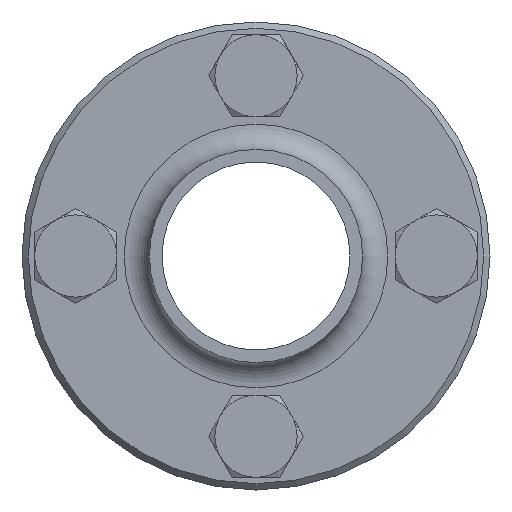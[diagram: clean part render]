
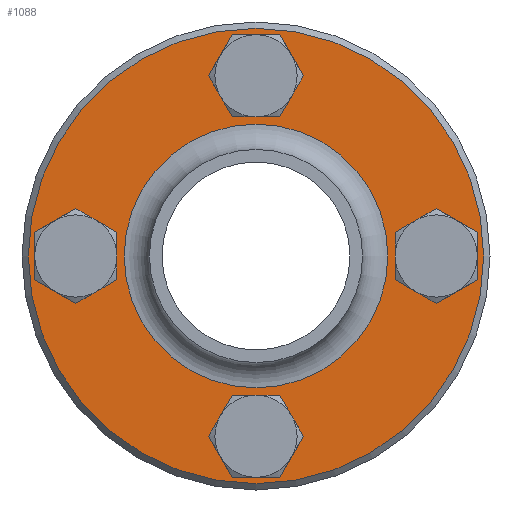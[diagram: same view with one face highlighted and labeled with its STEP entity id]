
A CAD part, front view. The second image highlights one B-rep face of the part: STEP entity #1088.
In plain terms, the highlighted planar face has unit normal (0, -1, 0).
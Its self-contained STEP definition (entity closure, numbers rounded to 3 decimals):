
#152=PLANE('',#1195);
#211=FACE_BOUND('',#381,.T.);
#212=FACE_BOUND('',#382,.T.);
#213=FACE_BOUND('',#383,.T.);
#214=FACE_BOUND('',#384,.T.);
#215=FACE_BOUND('',#385,.T.);
#280=FACE_OUTER_BOUND('',#380,.T.);
#380=EDGE_LOOP('',(#812));
#381=EDGE_LOOP('',(#813));
#382=EDGE_LOOP('',(#814));
#383=EDGE_LOOP('',(#815));
#384=EDGE_LOOP('',(#816));
#385=EDGE_LOOP('',(#817));
#491=CIRCLE('',#1155,4.5);
#493=CIRCLE('',#1158,4.5);
#495=CIRCLE('',#1161,4.5);
#497=CIRCLE('',#1164,4.5);
#513=CIRCLE('',#1194,36.);
#514=CIRCLE('',#1196,20.85);
#563=VERTEX_POINT('',#1674);
#565=VERTEX_POINT('',#1679);
#567=VERTEX_POINT('',#1684);
#569=VERTEX_POINT('',#1689);
#585=VERTEX_POINT('',#1735);
#586=VERTEX_POINT('',#1738);
#658=EDGE_CURVE('',#563,#563,#491,.T.);
#660=EDGE_CURVE('',#565,#565,#493,.T.);
#662=EDGE_CURVE('',#567,#567,#495,.T.);
#664=EDGE_CURVE('',#569,#569,#497,.T.);
#680=EDGE_CURVE('',#585,#585,#513,.T.);
#681=EDGE_CURVE('',#586,#586,#514,.T.);
#812=ORIENTED_EDGE('',*,*,#680,.T.);
#813=ORIENTED_EDGE('',*,*,#658,.T.);
#814=ORIENTED_EDGE('',*,*,#660,.T.);
#815=ORIENTED_EDGE('',*,*,#662,.T.);
#816=ORIENTED_EDGE('',*,*,#664,.T.);
#817=ORIENTED_EDGE('',*,*,#681,.F.);
#1088=ADVANCED_FACE('',(#280,#211,#212,#213,#214,#215),#152,.T.);
#1155=AXIS2_PLACEMENT_3D('',#1675,#1324,#1325);
#1158=AXIS2_PLACEMENT_3D('',#1680,#1330,#1331);
#1161=AXIS2_PLACEMENT_3D('',#1685,#1336,#1337);
#1164=AXIS2_PLACEMENT_3D('',#1690,#1342,#1343);
#1194=AXIS2_PLACEMENT_3D('',#1736,#1402,#1403);
#1195=AXIS2_PLACEMENT_3D('',#1737,#1404,#1405);
#1196=AXIS2_PLACEMENT_3D('',#1739,#1406,#1407);
#1324=DIRECTION('center_axis',(0.,1.,0.));
#1325=DIRECTION('ref_axis',(0.,0.,1.));
#1330=DIRECTION('center_axis',(0.,1.,0.));
#1331=DIRECTION('ref_axis',(1.,0.,0.));
#1336=DIRECTION('center_axis',(0.,1.,0.));
#1337=DIRECTION('ref_axis',(0.,0.,-1.));
#1342=DIRECTION('center_axis',(0.,1.,0.));
#1343=DIRECTION('ref_axis',(-1.,0.,0.));
#1402=DIRECTION('center_axis',(0.,-1.,0.));
#1403=DIRECTION('ref_axis',(1.,0.,0.));
#1404=DIRECTION('center_axis',(0.,-1.,0.));
#1405=DIRECTION('ref_axis',(0.,0.,-1.));
#1406=DIRECTION('center_axis',(0.,-1.,0.));
#1407=DIRECTION('ref_axis',(1.,0.,0.));
#1674=CARTESIAN_POINT('',(-28.5,35.,-4.5));
#1675=CARTESIAN_POINT('Origin',(-28.5,35.,0.));
#1679=CARTESIAN_POINT('',(-4.5,35.,28.5));
#1680=CARTESIAN_POINT('Origin',(0.,35.,28.5));
#1684=CARTESIAN_POINT('',(28.5,35.,4.5));
#1685=CARTESIAN_POINT('Origin',(28.5,35.,0.));
#1689=CARTESIAN_POINT('',(4.5,35.,-28.5));
#1690=CARTESIAN_POINT('Origin',(0.,35.,-28.5));
#1735=CARTESIAN_POINT('',(36.,35.,0.));
#1736=CARTESIAN_POINT('Origin',(0.,35.,0.));
#1737=CARTESIAN_POINT('Origin',(28.425,35.,0.));
#1738=CARTESIAN_POINT('',(20.85,35.,0.));
#1739=CARTESIAN_POINT('Origin',(0.,35.,0.));
